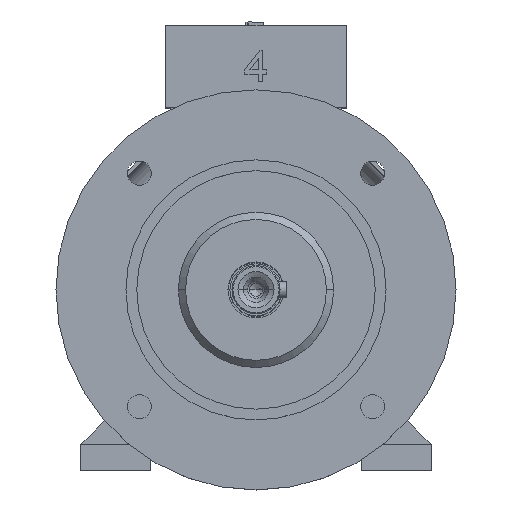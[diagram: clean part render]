
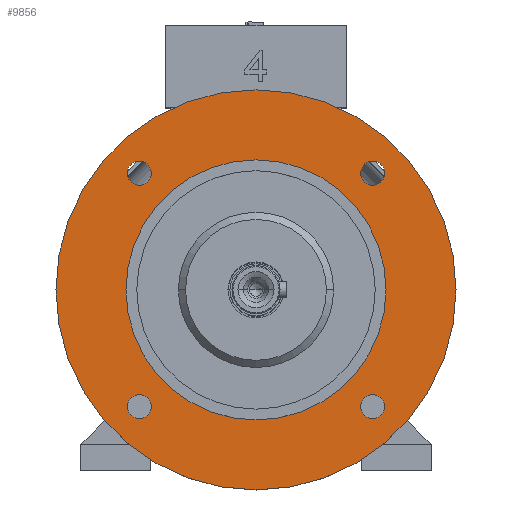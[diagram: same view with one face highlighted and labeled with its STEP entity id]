
A CAD part, top view. The second image highlights one B-rep face of the part: STEP entity #9856.
In plain terms, the highlighted planar face has unit normal (0, 0, 1).
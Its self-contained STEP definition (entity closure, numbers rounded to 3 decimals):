
#52 = EDGE_LOOP ( 'NONE', ( #13448, #3808 ) ) ;
#104 = VERTEX_POINT ( 'NONE', #3117 ) ;
#217 = DIRECTION ( 'NONE',  ( 0., 0., 1. ) ) ;
#229 = ORIENTED_EDGE ( 'NONE', *, *, #16898, .F. ) ;
#908 = CARTESIAN_POINT ( 'NONE',  ( -58.336, -58.336, 118.5 ) ) ;
#957 = DIRECTION ( 'NONE',  ( 0., 0., -1. ) ) ;
#974 = CARTESIAN_POINT ( 'NONE',  ( 100., 0., 118.5 ) ) ;
#1051 = VERTEX_POINT ( 'NONE', #15881 ) ;
#1254 = VERTEX_POINT ( 'NONE', #4528 ) ;
#1315 = DIRECTION ( 'NONE',  ( -1., 0., 0. ) ) ;
#1317 = DIRECTION ( 'NONE',  ( 1., 0., 0. ) ) ;
#1362 = CARTESIAN_POINT ( 'NONE',  ( 58.336, 58.336, 118.5 ) ) ;
#1375 = AXIS2_PLACEMENT_3D ( 'NONE', #908, #18440, #2074 ) ;
#1503 = ORIENTED_EDGE ( 'NONE', *, *, #6547, .T. ) ;
#1587 = ORIENTED_EDGE ( 'NONE', *, *, #11294, .F. ) ;
#1617 = EDGE_LOOP ( 'NONE', ( #12493, #4942 ) ) ;
#1670 = CARTESIAN_POINT ( 'NONE',  ( 0., 0., 118.5 ) ) ;
#1808 = CIRCLE ( 'NONE', #16011, 6. ) ;
#1899 = AXIS2_PLACEMENT_3D ( 'NONE', #11683, #3032, #1317 ) ;
#1996 = CARTESIAN_POINT ( 'NONE',  ( -100., 0., 118.5 ) ) ;
#2074 = DIRECTION ( 'NONE',  ( 0., -1., 0. ) ) ;
#2369 = EDGE_CURVE ( 'NONE', #1254, #14471, #6423, .T. ) ;
#2496 = ORIENTED_EDGE ( 'NONE', *, *, #15572, .F. ) ;
#3032 = DIRECTION ( 'NONE',  ( 0., 0., 1. ) ) ;
#3117 = CARTESIAN_POINT ( 'NONE',  ( 64.336, -58.336, 118.5 ) ) ;
#3343 = CARTESIAN_POINT ( 'NONE',  ( 52.336, -58.336, 118.5 ) ) ;
#3391 = DIRECTION ( 'NONE',  ( 0., 1., 0. ) ) ;
#3808 = ORIENTED_EDGE ( 'NONE', *, *, #6887, .F. ) ;
#4308 = CIRCLE ( 'NONE', #7272, 6. ) ;
#4528 = CARTESIAN_POINT ( 'NONE',  ( 65., 0., 118.5 ) ) ;
#4769 = CARTESIAN_POINT ( 'NONE',  ( -64.336, -58.336, 118.5 ) ) ;
#4853 = DIRECTION ( 'NONE',  ( 0., 0., 1. ) ) ;
#4942 = ORIENTED_EDGE ( 'NONE', *, *, #7834, .F. ) ;
#5002 = EDGE_CURVE ( 'NONE', #8396, #19015, #11151, .T. ) ;
#5131 = FACE_BOUND ( 'NONE', #52, .T. ) ;
#5174 = ORIENTED_EDGE ( 'NONE', *, *, #7170, .F. ) ;
#5538 = CARTESIAN_POINT ( 'NONE',  ( 0., 100., 118.5 ) ) ;
#5610 = FACE_OUTER_BOUND ( 'NONE', #9388, .T. ) ;
#5655 = DIRECTION ( 'NONE',  ( 0., 0., 1. ) ) ;
#5890 = EDGE_LOOP ( 'NONE', ( #1503, #11434 ) ) ;
#5960 = DIRECTION ( 'NONE',  ( 0., 0., -1. ) ) ;
#6064 = CARTESIAN_POINT ( 'NONE',  ( -64.336, 58.336, 118.5 ) ) ;
#6385 = CARTESIAN_POINT ( 'NONE',  ( 58.336, -58.336, 118.5 ) ) ;
#6423 = CIRCLE ( 'NONE', #15721, 65. ) ;
#6456 = VERTEX_POINT ( 'NONE', #3343 ) ;
#6547 = EDGE_CURVE ( 'NONE', #14471, #1254, #15893, .T. ) ;
#6816 = PLANE ( 'NONE',  #8020 ) ;
#6887 = EDGE_CURVE ( 'NONE', #19015, #8396, #14931, .T. ) ;
#7054 = VERTEX_POINT ( 'NONE', #16035 ) ;
#7073 = EDGE_LOOP ( 'NONE', ( #18404, #2496 ) ) ;
#7170 = EDGE_CURVE ( 'NONE', #13042, #14730, #13314, .T. ) ;
#7272 = AXIS2_PLACEMENT_3D ( 'NONE', #8669, #5655, #10125 ) ;
#7616 = EDGE_CURVE ( 'NONE', #1051, #17726, #16769, .T. ) ;
#7672 = CIRCLE ( 'NONE', #18265, 6. ) ;
#7834 = EDGE_CURVE ( 'NONE', #17726, #1051, #4308, .T. ) ;
#8020 = AXIS2_PLACEMENT_3D ( 'NONE', #5538, #14160, #15849 ) ;
#8090 = DIRECTION ( 'NONE',  ( -1., 0., 0. ) ) ;
#8261 = CARTESIAN_POINT ( 'NONE',  ( -52.336, 58.336, 118.5 ) ) ;
#8396 = VERTEX_POINT ( 'NONE', #8261 ) ;
#8669 = CARTESIAN_POINT ( 'NONE',  ( -58.336, -58.336, 118.5 ) ) ;
#9289 = FACE_BOUND ( 'NONE', #7073, .T. ) ;
#9345 = DIRECTION ( 'NONE',  ( 1., 0., 0. ) ) ;
#9388 = EDGE_LOOP ( 'NONE', ( #5174, #229 ) ) ;
#9593 = AXIS2_PLACEMENT_3D ( 'NONE', #14495, #11549, #11610 ) ;
#9856 = ADVANCED_FACE ( 'NONE', ( #13431, #5131, #9289, #12968, #18302, #5610 ), #6816, .T. ) ;
#10125 = DIRECTION ( 'NONE',  ( 0., -1., 0. ) ) ;
#10326 = AXIS2_PLACEMENT_3D ( 'NONE', #17143, #18615, #8090 ) ;
#10410 = AXIS2_PLACEMENT_3D ( 'NONE', #17593, #19062, #13167 ) ;
#11151 = CIRCLE ( 'NONE', #10410, 6. ) ;
#11231 = EDGE_LOOP ( 'NONE', ( #1587, #13246 ) ) ;
#11294 = EDGE_CURVE ( 'NONE', #104, #6456, #12674, .T. ) ;
#11320 = CARTESIAN_POINT ( 'NONE',  ( 0., 0., 118.5 ) ) ;
#11434 = ORIENTED_EDGE ( 'NONE', *, *, #2369, .T. ) ;
#11549 = DIRECTION ( 'NONE',  ( 0., 0., -1. ) ) ;
#11610 = DIRECTION ( 'NONE',  ( -1., 0., 0. ) ) ;
#11683 = CARTESIAN_POINT ( 'NONE',  ( 58.336, -58.336, 118.5 ) ) ;
#11686 = CARTESIAN_POINT ( 'NONE',  ( 64.336, 58.336, 118.5 ) ) ;
#12431 = CARTESIAN_POINT ( 'NONE',  ( 0., 0., 118.5 ) ) ;
#12493 = ORIENTED_EDGE ( 'NONE', *, *, #7616, .F. ) ;
#12674 = CIRCLE ( 'NONE', #1899, 6. ) ;
#12755 = VERTEX_POINT ( 'NONE', #11686 ) ;
#12968 = FACE_BOUND ( 'NONE', #11231, .T. ) ;
#13042 = VERTEX_POINT ( 'NONE', #1996 ) ;
#13167 = DIRECTION ( 'NONE',  ( -1., 0., 0. ) ) ;
#13181 = DIRECTION ( 'NONE',  ( 0., 1., 0. ) ) ;
#13228 = DIRECTION ( 'NONE',  ( -1., 0., 0. ) ) ;
#13246 = ORIENTED_EDGE ( 'NONE', *, *, #14114, .F. ) ;
#13314 = CIRCLE ( 'NONE', #18646, 100. ) ;
#13431 = FACE_BOUND ( 'NONE', #1617, .T. ) ;
#13448 = ORIENTED_EDGE ( 'NONE', *, *, #5002, .F. ) ;
#14114 = EDGE_CURVE ( 'NONE', #6456, #104, #1808, .T. ) ;
#14160 = DIRECTION ( 'NONE',  ( 0., 0., 1. ) ) ;
#14190 = CIRCLE ( 'NONE', #17767, 6. ) ;
#14471 = VERTEX_POINT ( 'NONE', #17553 ) ;
#14495 = CARTESIAN_POINT ( 'NONE',  ( 0., 0., 118.5 ) ) ;
#14683 = DIRECTION ( 'NONE',  ( 0., 0., 1. ) ) ;
#14730 = VERTEX_POINT ( 'NONE', #974 ) ;
#14931 = CIRCLE ( 'NONE', #10326, 6. ) ;
#15572 = EDGE_CURVE ( 'NONE', #7054, #12755, #14190, .T. ) ;
#15721 = AXIS2_PLACEMENT_3D ( 'NONE', #11320, #18898, #1315 ) ;
#15849 = DIRECTION ( 'NONE',  ( 1., 0., 0. ) ) ;
#15881 = CARTESIAN_POINT ( 'NONE',  ( -52.336, -58.336, 118.5 ) ) ;
#15893 = CIRCLE ( 'NONE', #17521, 65. ) ;
#16011 = AXIS2_PLACEMENT_3D ( 'NONE', #6385, #4853, #9345 ) ;
#16035 = CARTESIAN_POINT ( 'NONE',  ( 52.336, 58.336, 118.5 ) ) ;
#16769 = CIRCLE ( 'NONE', #1375, 6. ) ;
#16898 = EDGE_CURVE ( 'NONE', #14730, #13042, #17851, .T. ) ;
#16932 = DIRECTION ( 'NONE',  ( -1., 0., 0. ) ) ;
#16983 = EDGE_CURVE ( 'NONE', #12755, #7054, #7672, .T. ) ;
#17143 = CARTESIAN_POINT ( 'NONE',  ( -58.336, 58.336, 118.5 ) ) ;
#17521 = AXIS2_PLACEMENT_3D ( 'NONE', #12431, #957, #16932 ) ;
#17553 = CARTESIAN_POINT ( 'NONE',  ( -65., 0., 118.5 ) ) ;
#17593 = CARTESIAN_POINT ( 'NONE',  ( -58.336, 58.336, 118.5 ) ) ;
#17726 = VERTEX_POINT ( 'NONE', #4769 ) ;
#17767 = AXIS2_PLACEMENT_3D ( 'NONE', #17920, #217, #3391 ) ;
#17851 = CIRCLE ( 'NONE', #9593, 100. ) ;
#17920 = CARTESIAN_POINT ( 'NONE',  ( 58.336, 58.336, 118.5 ) ) ;
#18265 = AXIS2_PLACEMENT_3D ( 'NONE', #1362, #14683, #13181 ) ;
#18302 = FACE_BOUND ( 'NONE', #5890, .T. ) ;
#18404 = ORIENTED_EDGE ( 'NONE', *, *, #16983, .F. ) ;
#18440 = DIRECTION ( 'NONE',  ( 0., 0., 1. ) ) ;
#18615 = DIRECTION ( 'NONE',  ( 0., 0., 1. ) ) ;
#18646 = AXIS2_PLACEMENT_3D ( 'NONE', #1670, #5960, #13228 ) ;
#18898 = DIRECTION ( 'NONE',  ( 0., 0., -1. ) ) ;
#19015 = VERTEX_POINT ( 'NONE', #6064 ) ;
#19062 = DIRECTION ( 'NONE',  ( 0., 0., 1. ) ) ;
